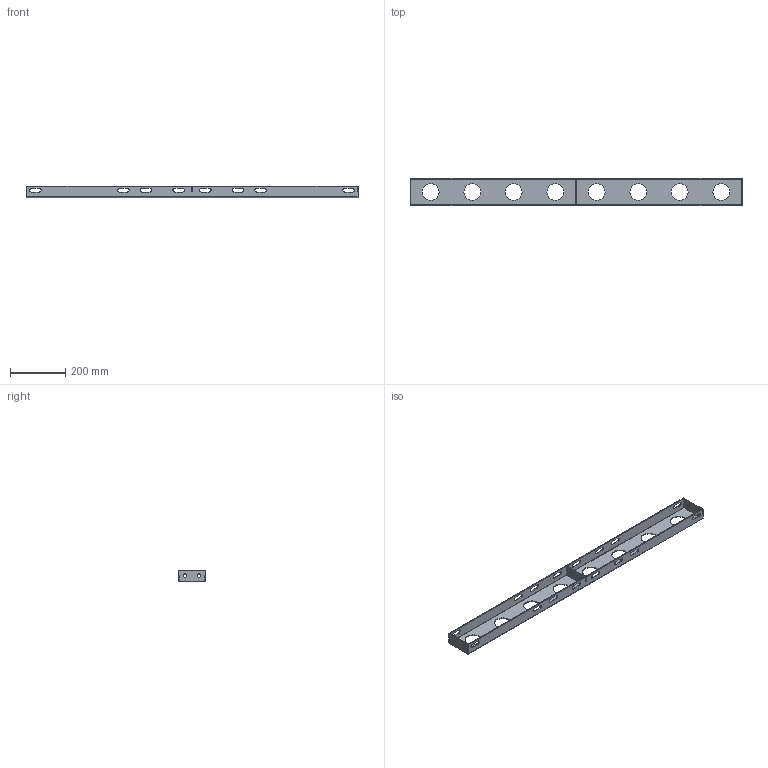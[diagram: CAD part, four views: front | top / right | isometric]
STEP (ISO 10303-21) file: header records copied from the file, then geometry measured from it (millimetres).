
FILE_DESCRIPTION(('CAx-IF Rec.Pracs.---Model Styling and Organization---1.2---2011-12-15','CAx-IF Rec.Pracs.---Geometric and Assembly Validation Properties---4.1---2014-06-16','CAx-IF Rec.Pracs.---PMI Polyline Presentation---2.0---2013-05-24'),'2;1');
FILE_NAME('R5TSW12.stp','2021-05-06T02:22:13+03:00',(''),(''),'STEP Interface 4.4 by CT CoreTechnologie','3D_Evolution4.4 by CT CoreTechnologie','');
FILE_SCHEMA(('AUTOMOTIVE_DESIGN { 1 0 10303 214 1 1 1 1 }'));
Length unit declared in the file: millimetre
Products named in the file (3): R5TSW12; RB.1194.00.01.0_-05; RB.1194.00.02.0_-00
Assembly tree (4 placements, depth 2):
  R5TSW12
    RB.1194.00.01.0_-05
    RB.1194.00.02.0_-00  x3
Bounding box: 1200 x 100 x 43 mm (x, y, z)
Surface area: 407635 mm2 (no closed solid volume)
Topology: 0 solids, 4 shells, 187 faces, 527 edges, 348 vertices
Faces by surface type: plane 117, cylinder 70
Entity records: 5055 total; most frequent: CARTESIAN_POINT 847, DIRECTION 839, ORIENTED_EDGE 838, EDGE_CURVE 419, VECTOR 303, LINE 303, VERTEX_POINT 276, AXIS2_PLACEMENT_3D 268
